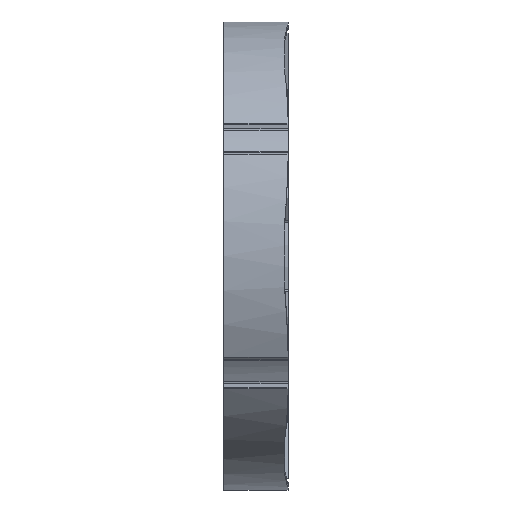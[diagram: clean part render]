
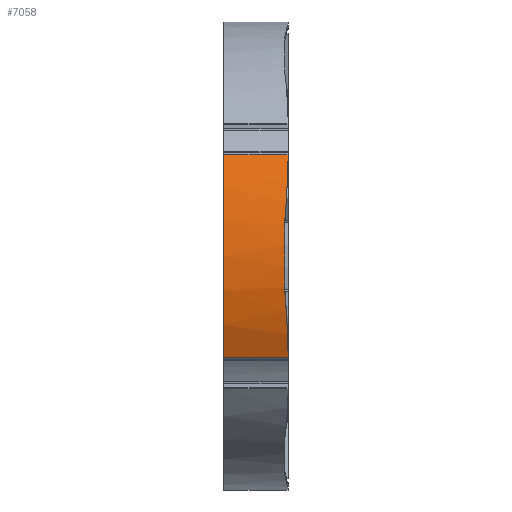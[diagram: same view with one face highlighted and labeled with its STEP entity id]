
A CAD part, left-side view. The second image highlights one B-rep face of the part: STEP entity #7058.
In plain terms, the highlighted cylindrical face has radius 134.94 mm (diameter 269.88 mm), a partial arc.
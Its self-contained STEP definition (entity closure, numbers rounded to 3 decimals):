
#43=CARTESIAN_POINT('',(-121.804,35.,58.074));
#45=CARTESIAN_POINT('',(-121.804,35.,-58.074));
#997=CARTESIAN_POINT('',(-121.804,-2.106,
-58.074));
#998=CARTESIAN_POINT('',(-123.305,-2.045,
-54.926));
#999=CARTESIAN_POINT('',(-126.066,-1.862,
-48.507));
#1000=CARTESIAN_POINT('',(-129.453,-1.411,
-38.569));
#1001=CARTESIAN_POINT('',(-132.064,-0.794,
-28.371));
#1002=CARTESIAN_POINT('',(-133.274,-0.28,
-21.432));
#1003=CARTESIAN_POINT('',(-133.742,0.,-17.939));
#1005=DIRECTION('',(0.,-1.,0.));
#1006=VECTOR('',#1005,2.106);
#1007=CARTESIAN_POINT('',(-121.804,0.,-58.074));
#1008=LINE('',#1007,#1006);
#1009=DIRECTION('',(0.,-1.,0.));
#1010=VECTOR('',#1009,35.);
#1011=CARTESIAN_POINT('',(-121.804,35.,-58.074));
#1012=LINE('',#1011,#1010);
#1013=CARTESIAN_POINT('',(0.,35.,0.));
#1014=DIRECTION('',(0.,1.,0.));
#1015=DIRECTION('',(-0.903,0.,-0.43));
#1016=AXIS2_PLACEMENT_3D('',#1013,#1014,#1015);
#1018=DIRECTION('',(0.,1.,0.));
#1019=VECTOR('',#1018,35.);
#1020=CARTESIAN_POINT('',(-121.804,0.,58.074));
#1021=LINE('',#1020,#1019);
#1022=CARTESIAN_POINT('',(-133.742,0.,17.939));
#1023=CARTESIAN_POINT('',(-133.12,-0.372,
22.576));
#1024=CARTESIAN_POINT('',(-131.394,-1.035,
31.78));
#1025=CARTESIAN_POINT('',(-127.395,-1.751,
45.22));
#1026=CARTESIAN_POINT('',(-123.813,-2.024,
53.859));
#1027=CARTESIAN_POINT('',(-121.804,-2.106,
58.074));
#3487=CARTESIAN_POINT('',(0.,0.,0.));
#3488=DIRECTION('',(0.,1.,0.));
#3489=DIRECTION('',(-0.991,0.,-0.133));
#3490=AXIS2_PLACEMENT_3D('',#3487,#3488,#3489);
#3507=DIRECTION('',(0.,-1.,0.));
#3508=VECTOR('',#3507,2.106);
#3509=CARTESIAN_POINT('',(-121.804,0.,58.074));
#3510=LINE('',#3509,#3508);
#3511=CARTESIAN_POINT('',(-121.804,0.,58.074));
#4881=CARTESIAN_POINT('',(-121.804,0.,-58.074));
#5082=VERTEX_POINT('',#45);
#5095=VERTEX_POINT('',#43);
#5145=VERTEX_POINT('',#3511);
#5168=VERTEX_POINT('',#4881);
#5229=CARTESIAN_POINT('',(-121.804,-2.106,
-58.074));
#5230=VERTEX_POINT('',#5229);
#5289=VERTEX_POINT('',#1003);
#5297=VERTEX_POINT('',#1022);
#5298=VERTEX_POINT('',#1027);
#7036=CARTESIAN_POINT('',(0.,0.,0.));
#7037=DIRECTION('',(0.,1.,0.));
#7038=DIRECTION('',(0.,0.,-1.));
#7039=AXIS2_PLACEMENT_3D('',#7036,#7037,#7038);
#7040=CYLINDRICAL_SURFACE('',#7039,134.94);
#7042=ORIENTED_EDGE('',*,*,#7041,.F.);
#7044=ORIENTED_EDGE('',*,*,#7043,.F.);
#7046=ORIENTED_EDGE('',*,*,#7045,.F.);
#7048=ORIENTED_EDGE('',*,*,#7047,.F.);
#7049=ORIENTED_EDGE('',*,*,#6260,.T.);
#7051=ORIENTED_EDGE('',*,*,#7050,.F.);
#7053=ORIENTED_EDGE('',*,*,#7052,.T.);
#7055=ORIENTED_EDGE('',*,*,#7054,.F.);
#7056=EDGE_LOOP('',(#7042,#7044,#7046,#7048,#7049,#7051,#7053,#7055));
#7057=FACE_OUTER_BOUND('',#7056,.F.);
#1004=B_SPLINE_CURVE_WITH_KNOTS('',3,(#997,#998,#999,#1000,#1001,#1002,#1003),
.UNSPECIFIED.,.F.,.F.,(4,1,1,1,4),(0.,0.25,0.5,0.75,1.),
.UNSPECIFIED.);
#1017=CIRCLE('',#1016,134.94);
#1028=B_SPLINE_CURVE_WITH_KNOTS('',3,(#1022,#1023,#1024,#1025,#1026,#1027),
.UNSPECIFIED.,.F.,.F.,(4,1,1,4),(0.,0.333,0.667,1.),
.UNSPECIFIED.);
#3491=CIRCLE('',#3490,134.94);
#6260=EDGE_CURVE('',#5082,#5095,#1017,.T.);
#7041=EDGE_CURVE('',#5289,#5297,#3491,.T.);
#7043=EDGE_CURVE('',#5230,#5289,#1004,.T.);
#7045=EDGE_CURVE('',#5168,#5230,#1008,.T.);
#7047=EDGE_CURVE('',#5082,#5168,#1012,.T.);
#7050=EDGE_CURVE('',#5145,#5095,#1021,.T.);
#7052=EDGE_CURVE('',#5145,#5298,#3510,.T.);
#7054=EDGE_CURVE('',#5297,#5298,#1028,.T.);
#7058=ADVANCED_FACE('',(#7057),#7040,.T.);
